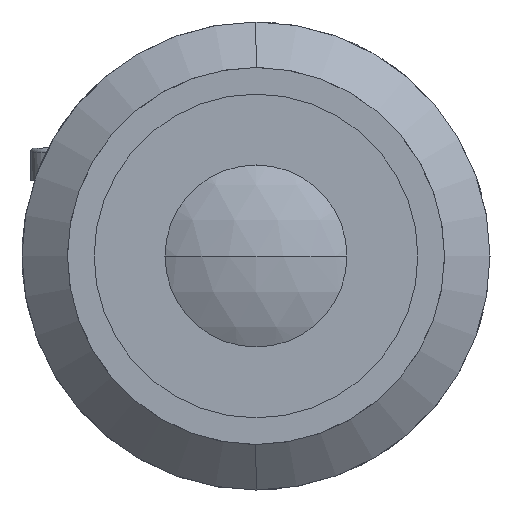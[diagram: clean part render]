
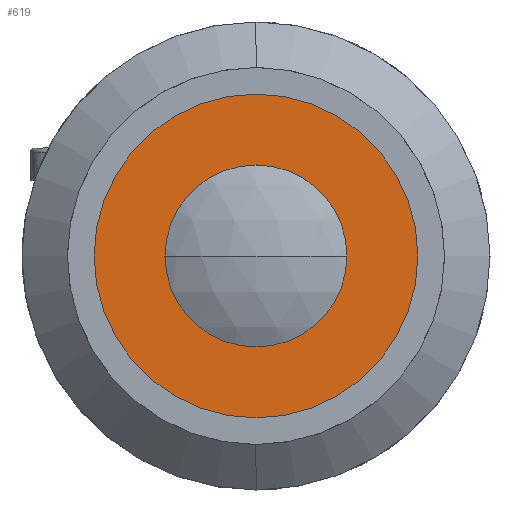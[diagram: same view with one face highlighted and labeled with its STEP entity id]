
A CAD part, left-side view. The second image highlights one B-rep face of the part: STEP entity #619.
In plain terms, the highlighted planar face has unit normal (-1, 0, 0).
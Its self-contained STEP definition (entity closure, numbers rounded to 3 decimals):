
#12 = AXIS2_PLACEMENT_3D ( 'NONE', #1320, #1297, #1288 ) ;
#26 = CIRCLE ( 'NONE', #3251, 7. ) ;
#48 = CARTESIAN_POINT ( 'NONE',  ( 3.8, 0., 7. ) ) ;
#69 = CIRCLE ( 'NONE', #928, 13.5 ) ;
#72 = CIRCLE ( 'NONE', #2509, 13.5 ) ;
#207 = AXIS2_PLACEMENT_3D ( 'NONE', #2489, #2453, #2439 ) ;
#244 = CARTESIAN_POINT ( 'NONE',  ( 3.8, 0., 0. ) ) ;
#260 = VERTEX_POINT ( 'NONE', #48 ) ;
#540 = DIRECTION ( 'NONE',  ( 0., 0., 1. ) ) ;
#619 = ADVANCED_FACE ( 'NONE', ( #1164, #1210 ), #2512, .F. ) ;
#664 = ORIENTED_EDGE ( 'NONE', *, *, #1825, .T. ) ;
#707 = CARTESIAN_POINT ( 'NONE',  ( 3.8, 0., 0. ) ) ;
#764 = EDGE_CURVE ( 'NONE', #260, #2513, #993, .T. ) ;
#850 = CARTESIAN_POINT ( 'NONE',  ( 3.8, 0., 0. ) ) ;
#928 = AXIS2_PLACEMENT_3D ( 'NONE', #850, #2828, #1153 ) ;
#993 = CIRCLE ( 'NONE', #12, 7. ) ;
#1004 = DIRECTION ( 'NONE',  ( 0., 0., 1. ) ) ;
#1095 = VERTEX_POINT ( 'NONE', #2903 ) ;
#1099 = EDGE_LOOP ( 'NONE', ( #3458, #664 ) ) ;
#1153 = DIRECTION ( 'NONE',  ( 0., 0., 1. ) ) ;
#1164 = FACE_BOUND ( 'NONE', #1515, .T. ) ;
#1189 = EDGE_CURVE ( 'NONE', #2513, #260, #26, .T. ) ;
#1210 = FACE_OUTER_BOUND ( 'NONE', #1099, .T. ) ;
#1288 = DIRECTION ( 'NONE',  ( 0., 0., 1. ) ) ;
#1297 = DIRECTION ( 'NONE',  ( -1., 0., 0. ) ) ;
#1320 = CARTESIAN_POINT ( 'NONE',  ( 3.8, 0., 0. ) ) ;
#1515 = EDGE_LOOP ( 'NONE', ( #2607, #2863 ) ) ;
#1600 = CARTESIAN_POINT ( 'NONE',  ( 3.8, 0., 13.5 ) ) ;
#1683 = CARTESIAN_POINT ( 'NONE',  ( 3.8, 0., -7. ) ) ;
#1825 = EDGE_CURVE ( 'NONE', #1095, #3169, #72, .T. ) ;
#2260 = DIRECTION ( 'NONE',  ( -1., 0., 0. ) ) ;
#2439 = DIRECTION ( 'NONE',  ( 0., 0., -1. ) ) ;
#2453 = DIRECTION ( 'NONE',  ( 1., 0., 0. ) ) ;
#2489 = CARTESIAN_POINT ( 'NONE',  ( 3.8, 13.5, 0. ) ) ;
#2509 = AXIS2_PLACEMENT_3D ( 'NONE', #244, #2260, #540 ) ;
#2512 = PLANE ( 'NONE',  #207 ) ;
#2513 = VERTEX_POINT ( 'NONE', #1683 ) ;
#2607 = ORIENTED_EDGE ( 'NONE', *, *, #764, .F. ) ;
#2695 = DIRECTION ( 'NONE',  ( -1., 0., 0. ) ) ;
#2828 = DIRECTION ( 'NONE',  ( -1., 0., 0. ) ) ;
#2863 = ORIENTED_EDGE ( 'NONE', *, *, #1189, .F. ) ;
#2903 = CARTESIAN_POINT ( 'NONE',  ( 3.8, 0., -13.5 ) ) ;
#3169 = VERTEX_POINT ( 'NONE', #1600 ) ;
#3251 = AXIS2_PLACEMENT_3D ( 'NONE', #707, #2695, #1004 ) ;
#3269 = EDGE_CURVE ( 'NONE', #3169, #1095, #69, .T. ) ;
#3458 = ORIENTED_EDGE ( 'NONE', *, *, #3269, .T. ) ;
